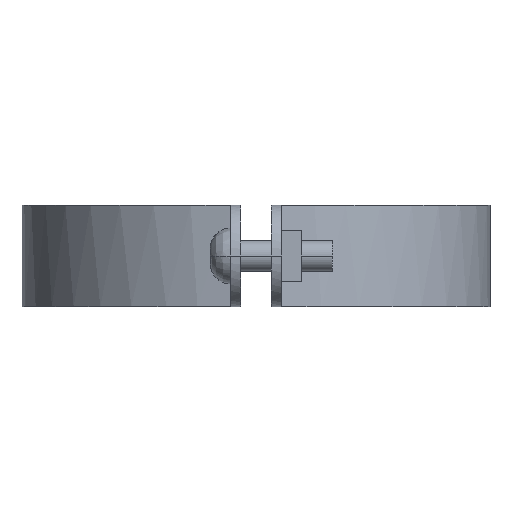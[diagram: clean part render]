
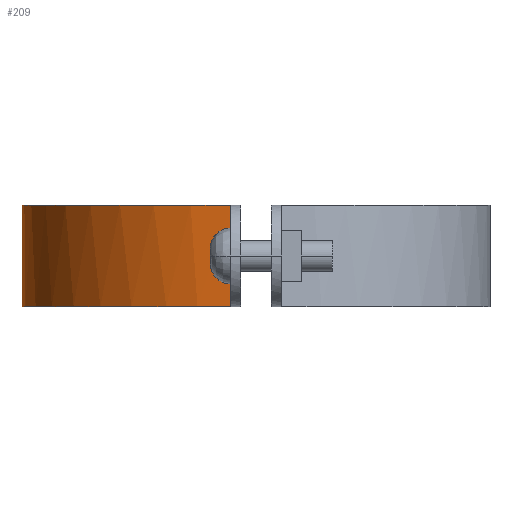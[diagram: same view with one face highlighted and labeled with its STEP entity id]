
A CAD part, left-side view. The second image highlights one B-rep face of the part: STEP entity #209.
In plain terms, the highlighted free-form (B-spline) face has degree [3, 1] with [4, 2] control points.
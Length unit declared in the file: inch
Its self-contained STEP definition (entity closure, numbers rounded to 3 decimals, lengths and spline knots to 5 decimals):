
#209=ADVANCED_FACE('',(#442),#443,.T.);
#442=FACE_OUTER_BOUND('',#977,.T.);
#443=B_SPLINE_SURFACE_WITH_KNOTS('',3,1,((#978,#979),(#980,#981),(#982,#983),(#984,#985)),.UNSPECIFIED.,.F.,.F.,.F.,(4,4),(2,2),(-1.0,-0.0),(0.0,1.25),.UNSPECIFIED.);
#977=EDGE_LOOP('',(#1560,#1561,#1562,#1563));
#978=CARTESIAN_POINT('',(3.59452,5.61672,0.0));
#979=CARTESIAN_POINT('',(3.59452,5.61672,1.25));
#980=CARTESIAN_POINT('',(2.12731,5.61672,0.0));
#981=CARTESIAN_POINT('',(2.12731,5.61672,1.25));
#982=CARTESIAN_POINT('',(0.89537,4.51215,0.0));
#983=CARTESIAN_POINT('',(0.89537,4.51215,1.25));
#984=CARTESIAN_POINT('',(0.73589,3.05364,0.0));
#985=CARTESIAN_POINT('',(0.73589,3.05364,1.25));
#1560=ORIENTED_EDGE('',*,*,#2110,.T.);
#1561=ORIENTED_EDGE('',*,*,#2111,.T.);
#1562=ORIENTED_EDGE('',*,*,#2112,.T.);
#1563=ORIENTED_EDGE('',*,*,#1994,.F.);
#1994=EDGE_CURVE('',#2263,#2265,#2266,.T.);
#2110=EDGE_CURVE('',#2263,#2459,#2460,.T.);
#2111=EDGE_CURVE('',#2459,#2461,#2462,.T.);
#2112=EDGE_CURVE('',#2461,#2265,#2463,.T.);
#2263=VERTEX_POINT('',#2656);
#2265=VERTEX_POINT('',#2659);
#2266=LINE('',#2660,#2661);
#2459=VERTEX_POINT('',#3045);
#2460=B_SPLINE_CURVE_WITH_KNOTS('',3,(#3046,#3047,#3048,#3049),.UNSPECIFIED.,.F.,.F.,(4,4),(-1.0,-0.0),.UNSPECIFIED.);
#2461=VERTEX_POINT('',#3050);
#2462=LINE('',#3051,#3052);
#2463=B_SPLINE_CURVE_WITH_KNOTS('',3,(#3053,#3054,#3055,#3056),.UNSPECIFIED.,.F.,.F.,(4,4),(0.0,1.0),.UNSPECIFIED.);
#2656=CARTESIAN_POINT('',(3.59452,5.61672,0.00011));
#2659=CARTESIAN_POINT('',(3.59452,5.61672,1.24992));
#2660=CARTESIAN_POINT('',(3.59452,5.61672,0.0));
#2661=VECTOR('',#3374,1.0);
#3045=CARTESIAN_POINT('',(0.73589,3.05364,0.00011));
#3046=CARTESIAN_POINT('',(3.59452,5.61672,0.00011));
#3047=CARTESIAN_POINT('',(2.12731,5.61672,0.00011));
#3048=CARTESIAN_POINT('',(0.89537,4.51215,0.00011));
#3049=CARTESIAN_POINT('',(0.73589,3.05364,0.00011));
#3050=CARTESIAN_POINT('',(0.73589,3.05364,1.24992));
#3051=CARTESIAN_POINT('',(0.73589,3.05364,0.0));
#3052=VECTOR('',#3446,1.0);
#3053=CARTESIAN_POINT('',(0.73589,3.05364,1.24992));
#3054=CARTESIAN_POINT('',(0.89537,4.51215,1.24992));
#3055=CARTESIAN_POINT('',(2.12731,5.61672,1.24992));
#3056=CARTESIAN_POINT('',(3.59452,5.61672,1.24992));
#3374=DIRECTION('',(0.0,0.0,1.0));
#3446=DIRECTION('',(0.0,0.0,1.0));
